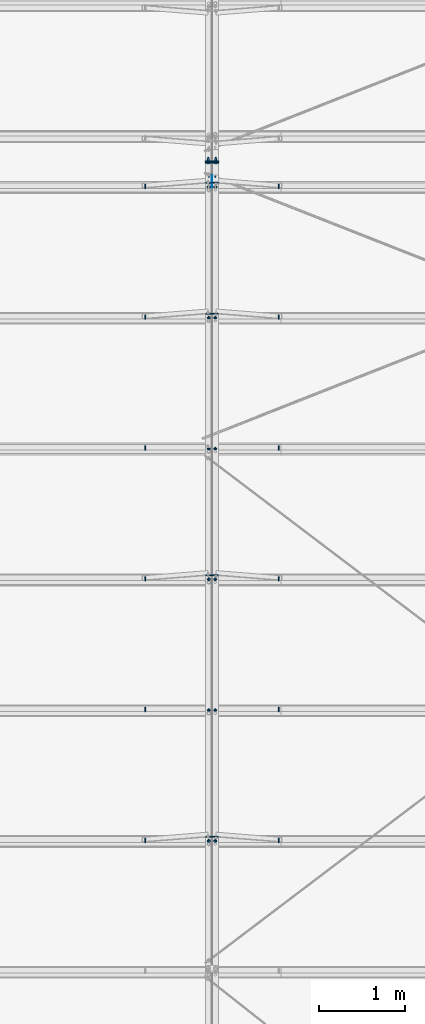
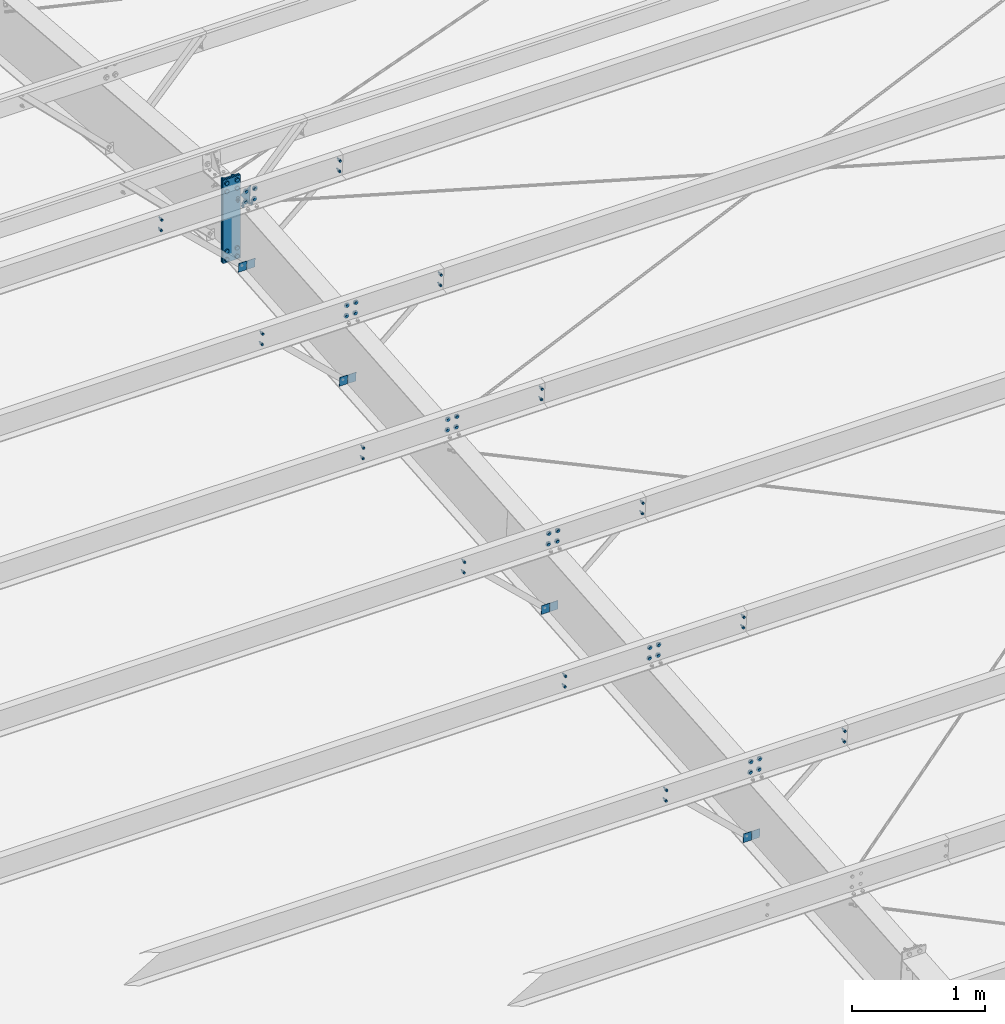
# One storey, part 79 of 185: 27 mechanical fasteners, 11 discrete accessories, 15 elements without a shape of their own.
"""IFC2X3 building model written with IfcOpenShell, lengths in millimetres."""

from ifc_helpers import new_model, si_unit, frame, origin_with_axes, origin_2d_with_axis, place, context, subcontext, project, spatial, polyline, rectangle, circle, outline, extrude, source, transform, mapped, material, type_object, element, aggregate, save


model = new_model("IFC2X3")

# Units and contexts
model_context = context("Model", 3, precision=1e-05, world=origin_with_axes())
body_context = subcontext(model_context, "Body", "Model", "MODEL_VIEW")
ifc_project = project(units=[si_unit("LENGTHUNIT", "METRE", prefix="MILLI"), si_unit("AREAUNIT", "SQUARE_METRE"), si_unit("VOLUMEUNIT", "CUBIC_METRE"), si_unit("MASSUNIT", "GRAM", prefix="KILO"), si_unit("TIMEUNIT", "SECOND"), si_unit("PLANEANGLEUNIT", "RADIAN"), si_unit("SOLIDANGLEUNIT", "STERADIAN"), si_unit("THERMODYNAMICTEMPERATUREUNIT", "DEGREE_CELSIUS"), si_unit("LUMINOUSINTENSITYUNIT", "LUMEN")], contexts=[model_context])

# Site, building, storey
site_placement = place(None, origin_with_axes())
site = spatial("IfcSite", under=ifc_project, at=site_placement, Name="Undefined", CompositionType="ELEMENT")
building_placement = place(site_placement, origin_with_axes())
building = spatial("IfcBuilding", under=site, at=building_placement, Name="Undefined", CompositionType="ELEMENT")
storey_placement = place(building_placement, origin_with_axes())
storey = spatial("IfcBuildingStorey", under=building, at=storey_placement, Name="Undefined", CompositionType="ELEMENT", Elevation=0.0)

# Assembly, mechanical fastener
assembly_1_placement = place(storey_placement, origin_with_axes())
assembly_1 = element("IfcElementAssembly", 1, at=assembly_1_placement, inside=storey, Name="Steel Assembly", AssemblyPlace="NOTDEFINED", PredefinedType="RIGID_FRAME")
ifc_material_1 = material(Name="Undefined")
discrete_accessory_type_1 = type_object("IfcDiscreteAccessoryType", Name="Bolt assembly")
shared_shape_1 = source(origin_with_axes(), body_context, "Body", "SweptSolid", [
    extrude(circle(Radius=7.14374971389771, at=origin_2d_with_axis()), frame((0.0, -1.59000001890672, 0.0), z_axis=(0.0, 1.0, 0.0), x_axis=(1.0, 0.0, 0.0)), (0.0, 0.0, 1.0), 3.3),
    extrude(circle(Radius=13.4937496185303, at=origin_2d_with_axis()), frame((0.0, -5.5587500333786, 0.0), z_axis=(0.0, 1.0, 0.0), x_axis=(1.0, 0.0, 0.0)), (0.0, 0.0, 1.0), 4.0),
    extrude(circle(Radius=22.2250003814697, at=origin_2d_with_axis()), frame((0.0, 1.5900000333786, 0.0), z_axis=(0.0, 1.0, 0.0), x_axis=(1.0, 0.0, 0.0)), (0.0, 0.0, 1.0), 7.9),
    extrude(outline(polyline([(12.8316099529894, 0.0), (6.4158049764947, 11.1125001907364), (-6.4158049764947, 11.1125001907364), (-12.8316099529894, 0.0), (-6.4158049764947, -11.1125001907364), (6.4158049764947, -11.1125001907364), (12.8316099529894, 0.0)])), frame((0.0, 9.5275000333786, 0.0), z_axis=(0.0, 1.0, 0.0), x_axis=(1.0, 0.0, 0.0)), (0.0, 0.0, 1.0), 12.3),
])
mechanical_fastener_1_placement = place(assembly_1_placement, frame((30137.1, 15702.4719876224, 7353.56325123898), z_axis=(1.0, 0.0, 0.0), x_axis=(0.0, 0.0830454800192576, -0.996545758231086)))
mechanical_fastener_1 = element("IfcMechanicalFastener", 2, at=mechanical_fastener_1_placement, type_object=discrete_accessory_type_1, material=ifc_material_1, Name="Bolt assembly", NominalDiameter=12.6999998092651, NominalLength=38.0999984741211, context=body_context, shape_type="MappedRepresentation", body=[
    mapped(shared_shape_1, transform((0.0, 0.0, 0.0))),
    mapped(shared_shape_1, transform((101.599998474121, 0.0, 0.0))),
])
aggregate(assembly_1, [mechanical_fastener_1])

assembly_2_placement = place(storey_placement, origin_with_axes())
assembly_2 = element("IfcElementAssembly", 3, at=assembly_2_placement, inside=storey, Name="Steel Assembly", AssemblyPlace="NOTDEFINED", PredefinedType="RIGID_FRAME")
mechanical_fastener_2_placement = place(assembly_2_placement, frame((30060.9, 15702.47198762, 7353.56325123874), z_axis=(1.0, 0.0, 0.0), x_axis=(0.0, 0.0830454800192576, -0.996545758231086)))
mechanical_fastener_2 = element("IfcMechanicalFastener", 4, at=mechanical_fastener_2_placement, type_object=discrete_accessory_type_1, material=ifc_material_1, Name="Bolt assembly", NominalDiameter=12.6999998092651, NominalLength=38.0999984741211, context=body_context, shape_type="MappedRepresentation", body=[
    mapped(shared_shape_1, transform((0.0, 0.0, 0.0))),
    mapped(shared_shape_1, transform((101.599998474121, 0.0, 0.0))),
])

assembly_3_placement = place(storey_placement, origin_with_axes())
assembly_3 = element("IfcElementAssembly", 5, at=assembly_3_placement, inside=storey, Name="Steel Assembly", AssemblyPlace="NOTDEFINED", PredefinedType="RIGID_FRAME")
mechanical_fastener_3_placement = place(assembly_3_placement, frame((30137.1, 14183.7362520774, 7227.00193968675), z_axis=(1.0, 0.0, 0.0), x_axis=(0.0, 0.0830454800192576, -0.996545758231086)))
mechanical_fastener_3 = element("IfcMechanicalFastener", 6, at=mechanical_fastener_3_placement, type_object=discrete_accessory_type_1, material=ifc_material_1, Name="Bolt assembly", NominalDiameter=12.6999998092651, NominalLength=38.0999984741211, context=body_context, shape_type="MappedRepresentation", body=[
    mapped(shared_shape_1, transform((0.0, 0.0, 0.0))),
    mapped(shared_shape_1, transform((101.599998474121, 0.0, 0.0))),
])
aggregate(assembly_3, [mechanical_fastener_3])

assembly_4_placement = place(storey_placement, origin_with_axes())
assembly_4 = element("IfcElementAssembly", 7, at=assembly_4_placement, inside=storey, Name="Steel Assembly", AssemblyPlace="NOTDEFINED", PredefinedType="RIGID_FRAME")
mechanical_fastener_4_placement = place(assembly_4_placement, frame((30060.9, 14183.7362520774, 7227.00193968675), z_axis=(1.0, 0.0, 0.0), x_axis=(0.0, 0.0830454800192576, -0.996545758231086)))
mechanical_fastener_4 = element("IfcMechanicalFastener", 8, at=mechanical_fastener_4_placement, type_object=discrete_accessory_type_1, material=ifc_material_1, Name="Bolt assembly", NominalDiameter=12.6999998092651, NominalLength=38.0999984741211, context=body_context, shape_type="MappedRepresentation", body=[
    mapped(shared_shape_1, transform((0.0, 0.0, 0.0))),
    mapped(shared_shape_1, transform((101.599998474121, 0.0, 0.0))),
])

assembly_5_placement = place(storey_placement, origin_with_axes())
assembly_5 = element("IfcElementAssembly", 9, at=assembly_5_placement, inside=storey, Name="Steel Assembly", AssemblyPlace="NOTDEFINED", PredefinedType="RIGID_FRAME")
mechanical_fastener_5_placement = place(assembly_5_placement, frame((30137.1, 12665.0005165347, 7100.44062813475), z_axis=(1.0, 0.0, 0.0), x_axis=(0.0, 0.0830454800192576, -0.996545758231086)))
mechanical_fastener_5 = element("IfcMechanicalFastener", 10, at=mechanical_fastener_5_placement, type_object=discrete_accessory_type_1, material=ifc_material_1, Name="Bolt assembly", NominalDiameter=12.6999998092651, NominalLength=38.0999984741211, context=body_context, shape_type="MappedRepresentation", body=[
    mapped(shared_shape_1, transform((0.0, 0.0, 0.0))),
    mapped(shared_shape_1, transform((101.599998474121, 0.0, 0.0))),
])
aggregate(assembly_5, [mechanical_fastener_5])

assembly_6_placement = place(storey_placement, origin_with_axes())
assembly_6 = element("IfcElementAssembly", 11, at=assembly_6_placement, inside=storey, Name="Steel Assembly", AssemblyPlace="NOTDEFINED", PredefinedType="RIGID_FRAME")
mechanical_fastener_6_placement = place(assembly_6_placement, frame((30060.9, 12665.0005165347, 7100.44062813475), z_axis=(1.0, 0.0, 0.0), x_axis=(0.0, 0.0830454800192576, -0.996545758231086)))
mechanical_fastener_6 = element("IfcMechanicalFastener", 12, at=mechanical_fastener_6_placement, type_object=discrete_accessory_type_1, material=ifc_material_1, Name="Bolt assembly", NominalDiameter=12.6999998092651, NominalLength=38.0999984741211, context=body_context, shape_type="MappedRepresentation", body=[
    mapped(shared_shape_1, transform((0.0, 0.0, 0.0))),
    mapped(shared_shape_1, transform((101.599998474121, 0.0, 0.0))),
])

assembly_7_placement = place(storey_placement, origin_with_axes())
assembly_7 = element("IfcElementAssembly", 13, at=assembly_7_placement, inside=storey, Name="Steel Assembly", AssemblyPlace="NOTDEFINED", PredefinedType="RIGID_FRAME")
mechanical_fastener_7_placement = place(assembly_7_placement, frame((30137.1, 11146.2647809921, 6973.87931658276), z_axis=(1.0, 0.0, 0.0), x_axis=(0.0, 0.0830454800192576, -0.996545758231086)))
mechanical_fastener_7 = element("IfcMechanicalFastener", 14, at=mechanical_fastener_7_placement, type_object=discrete_accessory_type_1, material=ifc_material_1, Name="Bolt assembly", NominalDiameter=12.6999998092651, NominalLength=38.0999984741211, context=body_context, shape_type="MappedRepresentation", body=[
    mapped(shared_shape_1, transform((0.0, 0.0, 0.0))),
    mapped(shared_shape_1, transform((101.599998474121, 0.0, 0.0))),
])
aggregate(assembly_7, [mechanical_fastener_7])

assembly_8_placement = place(storey_placement, origin_with_axes())
assembly_8 = element("IfcElementAssembly", 15, at=assembly_8_placement, inside=storey, Name="Steel Assembly", AssemblyPlace="NOTDEFINED", PredefinedType="RIGID_FRAME")
mechanical_fastener_8_placement = place(assembly_8_placement, frame((30060.9, 11146.2647809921, 6973.87931658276), z_axis=(1.0, 0.0, 0.0), x_axis=(0.0, 0.0830454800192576, -0.996545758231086)))
mechanical_fastener_8 = element("IfcMechanicalFastener", 16, at=mechanical_fastener_8_placement, type_object=discrete_accessory_type_1, material=ifc_material_1, Name="Bolt assembly", NominalDiameter=12.6999998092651, NominalLength=38.0999984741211, context=body_context, shape_type="MappedRepresentation", body=[
    mapped(shared_shape_1, transform((0.0, 0.0, 0.0))),
    mapped(shared_shape_1, transform((101.599998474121, 0.0, 0.0))),
])

assembly_9_placement = place(storey_placement, origin_with_axes())
assembly_9 = element("IfcElementAssembly", 17, at=assembly_9_placement, inside=storey, Name="Steel Assembly", AssemblyPlace="NOTDEFINED", PredefinedType="RIGID_FRAME")
mechanical_fastener_9_placement = place(assembly_9_placement, frame((30137.1, 9627.52904544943, 6847.31800503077), z_axis=(1.0, 0.0, 0.0), x_axis=(0.0, 0.0830454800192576, -0.996545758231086)))
mechanical_fastener_9 = element("IfcMechanicalFastener", 18, at=mechanical_fastener_9_placement, type_object=discrete_accessory_type_1, material=ifc_material_1, Name="Bolt assembly", NominalDiameter=12.6999998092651, NominalLength=38.0999984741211, context=body_context, shape_type="MappedRepresentation", body=[
    mapped(shared_shape_1, transform((0.0, 0.0, 0.0))),
    mapped(shared_shape_1, transform((101.599998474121, 0.0, 0.0))),
])
aggregate(assembly_9, [mechanical_fastener_9])

assembly_10_placement = place(storey_placement, origin_with_axes())
assembly_10 = element("IfcElementAssembly", 19, at=assembly_10_placement, inside=storey, Name="Steel Assembly", AssemblyPlace="NOTDEFINED", PredefinedType="RIGID_FRAME")
mechanical_fastener_10_placement = place(assembly_10_placement, frame((30060.9, 9627.52904544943, 6847.31800503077), z_axis=(1.0, 0.0, 0.0), x_axis=(0.0, 0.0830454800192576, -0.996545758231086)))
mechanical_fastener_10 = element("IfcMechanicalFastener", 20, at=mechanical_fastener_10_placement, type_object=discrete_accessory_type_1, material=ifc_material_1, Name="Bolt assembly", NominalDiameter=12.6999998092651, NominalLength=38.0999984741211, context=body_context, shape_type="MappedRepresentation", body=[
    mapped(shared_shape_1, transform((0.0, 0.0, 0.0))),
    mapped(shared_shape_1, transform((101.599998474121, 0.0, 0.0))),
])

assembly_11_placement = place(storey_placement, origin_with_axes())
assembly_11 = element("IfcElementAssembly", 21, at=assembly_11_placement, inside=storey, Name="Steel Assembly", AssemblyPlace="NOTDEFINED", PredefinedType="RIGID_FRAME")
mechanical_fastener_11_placement = place(assembly_11_placement, frame((30137.1, 8108.79330990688, 6720.75669347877), z_axis=(1.0, 0.0, 0.0), x_axis=(0.0, 0.0830454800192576, -0.996545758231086)))
mechanical_fastener_11 = element("IfcMechanicalFastener", 22, at=mechanical_fastener_11_placement, type_object=discrete_accessory_type_1, material=ifc_material_1, Name="Bolt assembly", NominalDiameter=12.6999998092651, NominalLength=38.0999984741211, context=body_context, shape_type="MappedRepresentation", body=[
    mapped(shared_shape_1, transform((0.0, 0.0, 0.0))),
    mapped(shared_shape_1, transform((101.599998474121, 0.0, 0.0))),
])
aggregate(assembly_11, [mechanical_fastener_11])

assembly_12_placement = place(storey_placement, origin_with_axes())
assembly_12 = element("IfcElementAssembly", 23, at=assembly_12_placement, inside=storey, Name="Steel Assembly", AssemblyPlace="NOTDEFINED", PredefinedType="RIGID_FRAME")
mechanical_fastener_12_placement = place(assembly_12_placement, frame((30060.9, 8108.79330990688, 6720.75669347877), z_axis=(1.0, 0.0, 0.0), x_axis=(0.0, 0.0830454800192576, -0.996545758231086)))
mechanical_fastener_12 = element("IfcMechanicalFastener", 24, at=mechanical_fastener_12_placement, type_object=discrete_accessory_type_1, material=ifc_material_1, Name="Bolt assembly", NominalDiameter=12.6999998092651, NominalLength=38.0999984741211, context=body_context, shape_type="MappedRepresentation", body=[
    mapped(shared_shape_1, transform((0.0, 0.0, 0.0))),
    mapped(shared_shape_1, transform((101.599998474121, 0.0, 0.0))),
])

# Assembly, discrete accessory
assembly_13_placement = place(storey_placement, origin_with_axes())
assembly_13 = element("IfcElementAssembly", 25, at=assembly_13_placement, inside=storey, Name="Steel Assembly", AssemblyPlace="NOTDEFINED", PredefinedType="RIGID_FRAME")
ifc_material_2 = material(Name="STEEL/55")
discrete_accessory_type_2 = type_object("IfcDiscreteAccessoryType", Name="PLATE")
discrete_accessory_1_placement = place(assembly_13_placement, frame((30099.0, 15853.8182223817, 7219.61919678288), z_axis=(-1.0, 0.0, 0.0), x_axis=(0.0, -0.996545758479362, -0.0830454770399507)))
discrete_accessory_1 = element("IfcDiscreteAccessory", 26, at=discrete_accessory_1_placement, type_object=discrete_accessory_type_2, material=ifc_material_2, Name="PLATE", ObjectType="FL1/4\"X5 1/4\"", context=body_context, shape_type="SweptSolid", body=[
    extrude(outline(polyline([(0.0, 0.0), (133.350006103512, 3.70164343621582e-10), (133.350006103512, 190.500000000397), (0.0, 0.0)])), frame((0.0, 0.0, -3.175), z_axis=(0.0, 0.0, 1.0), x_axis=(1.0, 0.0, 0.0)), (0.0, 0.0, 1.0), 6.4),
])

# Assembly, discrete accessories
assembly_14_placement = place(storey_placement, origin_with_axes())
assembly_14 = element("IfcElementAssembly", 27, at=assembly_14_placement, inside=storey, Name="Steel Assembly", AssemblyPlace="NOTDEFINED", PredefinedType="RIGID_FRAME")
discrete_accessory_type_3 = type_object("IfcDiscreteAccessoryType", Name="FLANGE BRACE FLIP")
discrete_accessory_2_placement = place(assembly_14_placement, frame((30100.70815, 15761.1512342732, 6628.84524774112), z_axis=(0.0, -0.0830454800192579, 0.996545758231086), x_axis=(1.0, 0.0, 0.0)))
discrete_accessory_2 = element("IfcDiscreteAccessory", 28, at=discrete_accessory_2_placement, type_object=discrete_accessory_type_3, material=ifc_material_2, Name="FLANGE BRACE FLIP", ObjectType="PL1/8\"X2 3/4\"", context=body_context, shape_type="SweptSolid", body=[
    extrude(rectangle(XDim=3.416, YDim=85.725, at=origin_2d_with_axis()), frame((69.8499999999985, 0.0, 0.0), z_axis=(-1.0, 0.0, 0.0), x_axis=(0.0, -1.0, 0.0)), (0.0, 0.0, 1.0), 69.8),
])
discrete_accessory_3_placement = place(assembly_14_placement, frame((30097.29185, 15761.1512342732, 6628.84524774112), z_axis=(0.0, -0.0830454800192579, 0.996545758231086), x_axis=(-1.0, 0.0, 0.0)))
discrete_accessory_3 = element("IfcDiscreteAccessory", 29, at=discrete_accessory_3_placement, type_object=discrete_accessory_type_3, material=ifc_material_2, Name="FLANGE BRACE FLIP", ObjectType="PL1/8\"X2 3/4\"", context=body_context, shape_type="SweptSolid", body=[
    extrude(rectangle(XDim=3.416, YDim=85.725, at=origin_2d_with_axis()), frame((69.8499999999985, 0.0, 0.0), z_axis=(-1.0, 0.0, 0.0), x_axis=(0.0, -1.0, 0.0)), (0.0, 0.0, 1.0), 69.8),
])
discrete_accessory_4_placement = place(assembly_14_placement, frame((30100.70815, 14242.4154987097, 6502.2839364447), z_axis=(0.0, -0.0830454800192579, 0.996545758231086), x_axis=(1.0, 0.0, 0.0)))
discrete_accessory_4 = element("IfcDiscreteAccessory", 30, at=discrete_accessory_4_placement, type_object=discrete_accessory_type_3, material=ifc_material_2, Name="FLANGE BRACE FLIP", ObjectType="PL1/8\"X2 3/4\"", context=body_context, shape_type="SweptSolid", body=[
    extrude(rectangle(XDim=3.416, YDim=85.725, at=origin_2d_with_axis()), frame((69.8499999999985, 0.0, 0.0), z_axis=(-1.0, 0.0, 0.0), x_axis=(0.0, -1.0, 0.0)), (0.0, 0.0, 1.0), 69.8),
])
discrete_accessory_5_placement = place(assembly_14_placement, frame((30097.29185, 14242.4154987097, 6502.2839364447), z_axis=(0.0, -0.0830454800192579, 0.996545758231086), x_axis=(-1.0, 0.0, 0.0)))
discrete_accessory_5 = element("IfcDiscreteAccessory", 31, at=discrete_accessory_5_placement, type_object=discrete_accessory_type_3, material=ifc_material_2, Name="FLANGE BRACE FLIP", ObjectType="PL1/8\"X2 3/4\"", context=body_context, shape_type="SweptSolid", body=[
    extrude(rectangle(XDim=3.416, YDim=85.725, at=origin_2d_with_axis()), frame((69.8499999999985, 0.0, 0.0), z_axis=(-1.0, 0.0, 0.0), x_axis=(0.0, -1.0, 0.0)), (0.0, 0.0, 1.0), 69.8),
])
discrete_accessory_6_placement = place(assembly_14_placement, frame((30100.70815, 11204.9440275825, 6249.16131385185), z_axis=(0.0, -0.0830454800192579, 0.996545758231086), x_axis=(1.0, 0.0, 0.0)))
discrete_accessory_6 = element("IfcDiscreteAccessory", 32, at=discrete_accessory_6_placement, type_object=discrete_accessory_type_3, material=ifc_material_2, Name="FLANGE BRACE FLIP", ObjectType="PL1/8\"X2 3/4\"", context=body_context, shape_type="SweptSolid", body=[
    extrude(rectangle(XDim=3.416, YDim=85.725, at=origin_2d_with_axis()), frame((69.8499999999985, 0.0, 0.0), z_axis=(-1.0, 0.0, 0.0), x_axis=(0.0, -1.0, 0.0)), (0.0, 0.0, 1.0), 69.8),
])
discrete_accessory_7_placement = place(assembly_14_placement, frame((30097.29185, 11204.9440275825, 6249.16131385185), z_axis=(0.0, -0.0830454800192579, 0.996545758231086), x_axis=(-1.0, 0.0, 0.0)))
discrete_accessory_7 = element("IfcDiscreteAccessory", 33, at=discrete_accessory_7_placement, type_object=discrete_accessory_type_3, material=ifc_material_2, Name="FLANGE BRACE FLIP", ObjectType="PL1/8\"X2 3/4\"", context=body_context, shape_type="SweptSolid", body=[
    extrude(rectangle(XDim=3.416, YDim=85.725, at=origin_2d_with_axis()), frame((69.8499999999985, 0.0, 0.0), z_axis=(-1.0, 0.0, 0.0), x_axis=(0.0, -1.0, 0.0)), (0.0, 0.0, 1.0), 69.8),
])
discrete_accessory_8_placement = place(assembly_14_placement, frame((30100.70815, 8167.47255645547, 5996.03869125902), z_axis=(0.0, -0.0830454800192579, 0.996545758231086), x_axis=(1.0, 0.0, 0.0)))
discrete_accessory_8 = element("IfcDiscreteAccessory", 34, at=discrete_accessory_8_placement, type_object=discrete_accessory_type_3, material=ifc_material_2, Name="FLANGE BRACE FLIP", ObjectType="PL1/8\"X2 3/4\"", context=body_context, shape_type="SweptSolid", body=[
    extrude(rectangle(XDim=3.416, YDim=85.725, at=origin_2d_with_axis()), frame((69.8499999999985, 0.0, 0.0), z_axis=(-1.0, 0.0, 0.0), x_axis=(0.0, -1.0, 0.0)), (0.0, 0.0, 1.0), 69.8),
])
discrete_accessory_9_placement = place(assembly_14_placement, frame((30097.29185, 8167.47255645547, 5996.03869125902), z_axis=(0.0, -0.0830454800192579, 0.996545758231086), x_axis=(-1.0, 0.0, 0.0)))
discrete_accessory_9 = element("IfcDiscreteAccessory", 35, at=discrete_accessory_9_placement, type_object=discrete_accessory_type_3, material=ifc_material_2, Name="FLANGE BRACE FLIP", ObjectType="PL1/8\"X2 3/4\"", context=body_context, shape_type="SweptSolid", body=[
    extrude(rectangle(XDim=3.416, YDim=85.725, at=origin_2d_with_axis()), frame((69.8499999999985, 0.0, 0.0), z_axis=(-1.0, 0.0, 0.0), x_axis=(0.0, -1.0, 0.0)), (0.0, 0.0, 1.0), 69.8),
])

# Mechanical fastener
shared_shape_2 = source(origin_with_axes(), body_context, "Body", "SweptSolid", [
    extrude(circle(Radius=7.14374971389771, at=origin_2d_with_axis()), frame((0.0, -0.0238014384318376, 0.0), z_axis=(0.0, 1.0, 0.0), x_axis=(1.0, 0.0, 0.0)), (0.0, 0.0, 1.0), 8.0),
    extrude(circle(Radius=7.14374971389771, at=origin_2d_with_axis()), frame((0.0, -6.24999999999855, 0.0), z_axis=(0.0, 1.0, 0.0), x_axis=(1.0, 0.0, 0.0)), (0.0, 0.0, 1.0), 6.4),
    extrude(outline(polyline([(10.9985221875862, 0.0), (5.4992610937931, 9.52499961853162), (-5.4992610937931, 9.52499961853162), (-10.9985221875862, 0.0), (-5.4992610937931, -9.52499961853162), (5.4992610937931, -9.52499961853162), (10.9985221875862, 0.0)])), frame((0.0, -15.8750000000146, 0.0), z_axis=(0.0, 1.0, 0.0), x_axis=(1.0, 0.0, 0.0)), (0.0, 0.0, 1.0), 9.5),
    extrude(circle(Radius=6.34999990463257, at=origin_2d_with_axis()), frame((0.0, -6.34999953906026, 0.0), z_axis=(0.0, 1.0, 0.0), x_axis=(1.0, 0.0, 0.0)), (0.0, 0.0, 1.0), 38.1),
    extrude(outline(polyline([(12.8316099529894, 0.0), (6.4158049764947, 11.1125001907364), (-6.4158049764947, 11.1125001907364), (-12.8316099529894, 0.0), (-6.4158049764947, -11.1125001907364), (6.4158049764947, -11.1125001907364), (12.8316099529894, 0.0)])), frame((0.0, 7.95019856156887, 0.0), z_axis=(0.0, 1.0, 0.0), x_axis=(1.0, 0.0, 0.0)), (0.0, 0.0, 1.0), 12.3),
])
mechanical_fastener_13_placement = place(assembly_13_placement, frame((30099.0, 15753.0965121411, 7204.85371046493), z_axis=(-1.0, 0.0, 0.0), x_axis=(0.0, 0.996545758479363, 0.0830454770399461)))
mechanical_fastener_13 = element("IfcMechanicalFastener", 36, at=mechanical_fastener_13_placement, type_object=discrete_accessory_type_1, material=ifc_material_1, Name="Bolt assembly", NominalDiameter=12.6999998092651, NominalLength=38.0999984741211, context=body_context, shape_type="MappedRepresentation", body=[
    mapped(shared_shape_2, transform((0.0, 0.0, -38.0999984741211))),
    mapped(shared_shape_2, transform((76.1999969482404, -1.38243194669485e-10, -38.0999984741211))),
    mapped(shared_shape_2, transform((0.0, 0.0, 38.0999984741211))),
    mapped(shared_shape_2, transform((76.1999969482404, -1.38243194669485e-10, 38.0999984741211))),
])

aggregate(assembly_13, [mechanical_fastener_13, discrete_accessory_1])

shared_shape_3 = source(origin_with_axes(), body_context, "Body", "SweptSolid", [
    extrude(circle(Radius=7.14374971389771, at=origin_2d_with_axis()), frame((0.0, -1.4900000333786, 0.0), z_axis=(0.0, 1.0, 0.0), x_axis=(1.0, 0.0, 0.0)), (0.0, 0.0, 1.0), 3.2),
    extrude(circle(Radius=7.14374971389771, at=origin_2d_with_axis()), frame((0.0, -1.4900000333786, 0.0), z_axis=(0.0, 1.0, 0.0), x_axis=(1.0, 0.0, 0.0)), (0.0, 0.0, 1.0), 3.2),
    extrude(outline(polyline([(10.9985221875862, 0.0), (5.4992610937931, 9.52499961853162), (-5.4992610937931, 9.52499961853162), (-10.9985221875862, 0.0), (-5.4992610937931, -9.52499961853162), (5.4992610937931, -9.52499961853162), (10.9985221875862, 0.0)])), frame((0.0, -11.1149996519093, 0.0), z_axis=(0.0, 1.0, 0.0), x_axis=(1.0, 0.0, 0.0)), (0.0, 0.0, 1.0), 9.5),
    extrude(circle(Radius=6.34999990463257, at=origin_2d_with_axis()), frame((0.0, -1.59000001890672, 0.0), z_axis=(0.0, 1.0, 0.0), x_axis=(1.0, 0.0, 0.0)), (0.0, 0.0, 1.0), 38.1),
    extrude(outline(polyline([(12.8316099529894, 0.0), (6.4158049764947, 11.1125001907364), (-6.4158049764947, 11.1125001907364), (-12.8316099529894, 0.0), (-6.4158049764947, -11.1125001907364), (6.4158049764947, -11.1125001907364), (12.8316099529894, 0.0)])), frame((0.0, 1.5900000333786, 0.0), z_axis=(0.0, 1.0, 0.0), x_axis=(1.0, 0.0, 0.0)), (0.0, 0.0, 1.0), 12.3),
])
mechanical_fastener_14_placement = place(assembly_12_placement, frame((30873.7, 8108.79330990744, 6720.75669347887), z_axis=(1.0, 0.0, 0.0), x_axis=(0.0, 0.0830454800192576, -0.996545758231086)))
mechanical_fastener_14 = element("IfcMechanicalFastener", 37, at=mechanical_fastener_14_placement, type_object=discrete_accessory_type_1, material=ifc_material_1, Name="Bolt assembly", NominalDiameter=12.6999998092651, NominalLength=38.0999984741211, context=body_context, shape_type="MappedRepresentation", body=[
    mapped(shared_shape_3, transform((0.0, 0.0, 0.0))),
    mapped(shared_shape_3, transform((101.599998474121, 0.0, 0.0))),
])

mechanical_fastener_15_placement = place(assembly_12_placement, frame((29324.3, 8108.79330990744, 6720.75669347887), z_axis=(1.0, 0.0, 0.0), x_axis=(0.0, 0.0830454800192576, -0.996545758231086)))
mechanical_fastener_15 = element("IfcMechanicalFastener", 38, at=mechanical_fastener_15_placement, type_object=discrete_accessory_type_1, material=ifc_material_1, Name="Bolt assembly", NominalDiameter=12.6999998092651, NominalLength=38.0999984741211, context=body_context, shape_type="MappedRepresentation", body=[
    mapped(shared_shape_3, transform((0.0, 0.0, 0.0))),
    mapped(shared_shape_3, transform((101.599998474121, 0.0, 0.0))),
])

aggregate(assembly_12, [mechanical_fastener_14, mechanical_fastener_15, mechanical_fastener_12])

mechanical_fastener_16_placement = place(assembly_10_placement, frame((30873.7, 9627.52904545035, 6847.31800503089), z_axis=(1.0, 0.0, 0.0), x_axis=(0.0, 0.0830454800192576, -0.996545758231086)))
mechanical_fastener_16 = element("IfcMechanicalFastener", 39, at=mechanical_fastener_16_placement, type_object=discrete_accessory_type_1, material=ifc_material_1, Name="Bolt assembly", NominalDiameter=12.6999998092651, NominalLength=38.0999984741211, context=body_context, shape_type="MappedRepresentation", body=[
    mapped(shared_shape_3, transform((0.0, 0.0, 0.0))),
    mapped(shared_shape_3, transform((101.599998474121, 0.0, 0.0))),
])

mechanical_fastener_17_placement = place(assembly_10_placement, frame((29324.3, 9627.52904545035, 6847.31800503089), z_axis=(1.0, 0.0, 0.0), x_axis=(0.0, 0.0830454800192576, -0.996545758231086)))
mechanical_fastener_17 = element("IfcMechanicalFastener", 40, at=mechanical_fastener_17_placement, type_object=discrete_accessory_type_1, material=ifc_material_1, Name="Bolt assembly", NominalDiameter=12.6999998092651, NominalLength=38.0999984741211, context=body_context, shape_type="MappedRepresentation", body=[
    mapped(shared_shape_3, transform((0.0, 0.0, 0.0))),
    mapped(shared_shape_3, transform((101.599998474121, 0.0, 0.0))),
])

aggregate(assembly_10, [mechanical_fastener_16, mechanical_fastener_17, mechanical_fastener_10])

mechanical_fastener_18_placement = place(assembly_8_placement, frame((30873.7, 11146.2647809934, 6973.87931658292), z_axis=(1.0, 0.0, 0.0), x_axis=(0.0, 0.0830454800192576, -0.996545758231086)))
mechanical_fastener_18 = element("IfcMechanicalFastener", 41, at=mechanical_fastener_18_placement, type_object=discrete_accessory_type_1, material=ifc_material_1, Name="Bolt assembly", NominalDiameter=12.6999998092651, NominalLength=38.0999984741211, context=body_context, shape_type="MappedRepresentation", body=[
    mapped(shared_shape_3, transform((0.0, 0.0, 0.0))),
    mapped(shared_shape_3, transform((101.599998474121, 0.0, 0.0))),
])

mechanical_fastener_19_placement = place(assembly_8_placement, frame((29324.3, 11146.2647809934, 6973.87931658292), z_axis=(1.0, 0.0, 0.0), x_axis=(0.0, 0.0830454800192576, -0.996545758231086)))
mechanical_fastener_19 = element("IfcMechanicalFastener", 42, at=mechanical_fastener_19_placement, type_object=discrete_accessory_type_1, material=ifc_material_1, Name="Bolt assembly", NominalDiameter=12.6999998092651, NominalLength=38.0999984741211, context=body_context, shape_type="MappedRepresentation", body=[
    mapped(shared_shape_3, transform((0.0, 0.0, 0.0))),
    mapped(shared_shape_3, transform((101.599998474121, 0.0, 0.0))),
])

aggregate(assembly_8, [mechanical_fastener_18, mechanical_fastener_19, mechanical_fastener_8])

mechanical_fastener_20_placement = place(assembly_6_placement, frame((30873.7, 12665.0005165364, 7100.44062813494), z_axis=(1.0, 0.0, 0.0), x_axis=(0.0, 0.0830454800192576, -0.996545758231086)))
mechanical_fastener_20 = element("IfcMechanicalFastener", 43, at=mechanical_fastener_20_placement, type_object=discrete_accessory_type_1, material=ifc_material_1, Name="Bolt assembly", NominalDiameter=12.6999998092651, NominalLength=38.0999984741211, context=body_context, shape_type="MappedRepresentation", body=[
    mapped(shared_shape_3, transform((0.0, 0.0, 0.0))),
    mapped(shared_shape_3, transform((101.599998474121, 0.0, 0.0))),
])

mechanical_fastener_21_placement = place(assembly_6_placement, frame((29324.3, 12665.0005165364, 7100.44062813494), z_axis=(1.0, 0.0, 0.0), x_axis=(0.0, 0.0830454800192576, -0.996545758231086)))
mechanical_fastener_21 = element("IfcMechanicalFastener", 44, at=mechanical_fastener_21_placement, type_object=discrete_accessory_type_1, material=ifc_material_1, Name="Bolt assembly", NominalDiameter=12.6999998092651, NominalLength=38.0999984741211, context=body_context, shape_type="MappedRepresentation", body=[
    mapped(shared_shape_3, transform((0.0, 0.0, 0.0))),
    mapped(shared_shape_3, transform((101.599998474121, 0.0, 0.0))),
])

aggregate(assembly_6, [mechanical_fastener_20, mechanical_fastener_21, mechanical_fastener_6])

mechanical_fastener_22_placement = place(assembly_4_placement, frame((30873.7, 14183.7362520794, 7227.00193968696), z_axis=(1.0, 0.0, 0.0), x_axis=(0.0, 0.0830454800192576, -0.996545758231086)))
mechanical_fastener_22 = element("IfcMechanicalFastener", 45, at=mechanical_fastener_22_placement, type_object=discrete_accessory_type_1, material=ifc_material_1, Name="Bolt assembly", NominalDiameter=12.6999998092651, NominalLength=38.0999984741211, context=body_context, shape_type="MappedRepresentation", body=[
    mapped(shared_shape_3, transform((0.0, 0.0, 0.0))),
    mapped(shared_shape_3, transform((101.599998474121, 0.0, 0.0))),
])

mechanical_fastener_23_placement = place(assembly_4_placement, frame((29324.3, 14183.7362520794, 7227.00193968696), z_axis=(1.0, 0.0, 0.0), x_axis=(0.0, 0.0830454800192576, -0.996545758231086)))
mechanical_fastener_23 = element("IfcMechanicalFastener", 46, at=mechanical_fastener_23_placement, type_object=discrete_accessory_type_1, material=ifc_material_1, Name="Bolt assembly", NominalDiameter=12.6999998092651, NominalLength=38.0999984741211, context=body_context, shape_type="MappedRepresentation", body=[
    mapped(shared_shape_3, transform((0.0, 0.0, 0.0))),
    mapped(shared_shape_3, transform((101.599998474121, 0.0, 0.0))),
])

aggregate(assembly_4, [mechanical_fastener_22, mechanical_fastener_23, mechanical_fastener_4])

mechanical_fastener_24_placement = place(assembly_2_placement, frame((30873.7, 15702.4719876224, 7353.56325123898), z_axis=(1.0, 0.0, 0.0), x_axis=(0.0, 0.0830454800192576, -0.996545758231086)))
mechanical_fastener_24 = element("IfcMechanicalFastener", 47, at=mechanical_fastener_24_placement, type_object=discrete_accessory_type_1, material=ifc_material_1, Name="Bolt assembly", NominalDiameter=12.6999998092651, NominalLength=38.0999984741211, context=body_context, shape_type="MappedRepresentation", body=[
    mapped(shared_shape_3, transform((0.0, 0.0, 0.0))),
    mapped(shared_shape_3, transform((101.599998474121, 0.0, 0.0))),
])

mechanical_fastener_25_placement = place(assembly_2_placement, frame((29324.3, 15702.4719876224, 7353.56325123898), z_axis=(1.0, 0.0, 0.0), x_axis=(0.0, 0.0830454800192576, -0.996545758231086)))
mechanical_fastener_25 = element("IfcMechanicalFastener", 48, at=mechanical_fastener_25_placement, type_object=discrete_accessory_type_1, material=ifc_material_1, Name="Bolt assembly", NominalDiameter=12.6999998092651, NominalLength=38.0999984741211, context=body_context, shape_type="MappedRepresentation", body=[
    mapped(shared_shape_3, transform((0.0, 0.0, 0.0))),
    mapped(shared_shape_3, transform((101.599998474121, 0.0, 0.0))),
])

aggregate(assembly_2, [mechanical_fastener_24, mechanical_fastener_25, mechanical_fastener_2])

shared_shape_4 = source(origin_with_axes(), body_context, "Body", "SweptSolid", [
    extrude(circle(Radius=10.3187494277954, at=origin_2d_with_axis()), frame((0.0, -0.1, 0.0), z_axis=(0.0, 1.0, 0.0), x_axis=(1.0, 0.0, 0.0)), (0.0, 0.0, 1.0), 12.8),
    extrude(circle(Radius=10.3187494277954, at=origin_2d_with_axis()), frame((0.0, -12.5999999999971, 0.0), z_axis=(0.0, 1.0, 0.0), x_axis=(1.0, 0.0, 0.0)), (0.0, 0.0, 1.0), 12.7),
    extrude(outline(polyline([(18.3308710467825, 0.0), (9.16543552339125, 15.8750000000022), (-9.16543552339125, 15.8750000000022), (-18.3308710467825, 0.0), (-9.16543552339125, -15.8750000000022), (9.16543552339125, -15.8750000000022), (18.3308710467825, 0.0)])), frame((0.0, -24.6062499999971, 0.0), z_axis=(0.0, 1.0, 0.0), x_axis=(1.0, 0.0, 0.0)), (0.0, 0.0, 1.0), 11.9),
    extrude(circle(Radius=9.52499961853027, at=origin_2d_with_axis()), frame((0.0, -12.6999999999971, 0.0), z_axis=(0.0, 1.0, 0.0), x_axis=(1.0, 0.0, 0.0)), (0.0, 0.0, 1.0), 69.8),
    extrude(circle(Radius=22.2250003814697, at=origin_2d_with_axis()), frame((0.0, 12.6999999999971, 0.0), z_axis=(0.0, 1.0, 0.0), x_axis=(1.0, 0.0, 0.0)), (0.0, 0.0, 1.0), 7.9),
    extrude(outline(polyline([(18.3308710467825, 0.0), (9.16543552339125, 15.8750000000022), (-9.16543552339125, 15.8750000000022), (-18.3308710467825, 0.0), (-9.16543552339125, -15.8750000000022), (9.16543552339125, -15.8750000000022), (18.3308710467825, 0.0)])), frame((0.0, 20.6374999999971, 0.0), z_axis=(0.0, 1.0, 0.0), x_axis=(1.0, 0.0, 0.0)), (0.0, 0.0, 1.0), 19.0),
])
mechanical_fastener_26_placement = place(assembly_14_placement, frame((30099.0, 16001.9999999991, 6561.9804128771), z_axis=(-1.0, 0.0, 0.0), x_axis=(0.0, 0.0, 1.0)))
mechanical_fastener_26 = element("IfcMechanicalFastener", 49, at=mechanical_fastener_26_placement, type_object=discrete_accessory_type_1, material=ifc_material_1, Name="Bolt assembly", NominalDiameter=19.0499992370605, NominalLength=69.8499984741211, context=body_context, shape_type="MappedRepresentation", body=[
    mapped(shared_shape_4, transform((0.0, 0.0, -44.4500007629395))),
    mapped(shared_shape_4, transform((76.1999969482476, 0.0, -44.4500007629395))),
    mapped(shared_shape_4, transform((0.0, 0.0, 44.4500007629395))),
    mapped(shared_shape_4, transform((76.1999969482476, 0.0, 44.4500007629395))),
])

mechanical_fastener_27_placement = place(assembly_14_placement, frame((30099.0, 16001.9999999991, 7262.06791218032), z_axis=(1.0, 0.0, 0.0), x_axis=(0.0, 0.0, -1.0)))
mechanical_fastener_27 = element("IfcMechanicalFastener", 50, at=mechanical_fastener_27_placement, type_object=discrete_accessory_type_1, material=ifc_material_1, Name="Bolt assembly", NominalDiameter=19.0499992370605, NominalLength=69.8499984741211, context=body_context, shape_type="MappedRepresentation", body=[
    mapped(shared_shape_4, transform((0.0, 0.0, -44.4500007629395))),
    mapped(shared_shape_4, transform((76.1999969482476, 0.0, -44.4500007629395))),
    mapped(shared_shape_4, transform((0.0, 0.0, 44.4500007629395))),
    mapped(shared_shape_4, transform((76.1999969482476, 0.0, 44.4500007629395))),
])

# Assembly, discrete accessory
assembly_15_placement = place(storey_placement, origin_with_axes())
assembly_15 = element("IfcElementAssembly", 51, at=assembly_15_placement, inside=storey, Name="Steel Assembly", AssemblyPlace="NOTDEFINED", PredefinedType="RIGID_FRAME")
discrete_accessory_type_4 = type_object("IfcDiscreteAccessoryType", Name="Rafter Ridge Plate")
discrete_accessory_10_placement = place(assembly_15_placement, frame((30099.0, 16008.3500000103, 7293.81790912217), z_axis=(-1.0, 0.0, 0.0), x_axis=(0.0, 0.0, -1.0)))
discrete_accessory_10 = element("IfcDiscreteAccessory", 52, at=discrete_accessory_10_placement, type_object=discrete_accessory_type_4, material=ifc_material_2, Name="Rafter Ridge Plate", ObjectType="FL1/2\"X6\"", context=body_context, shape_type="SweptSolid", body=[
    extrude(rectangle(XDim=12.7, YDim=152.4, at=origin_2d_with_axis()), frame((763.587493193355, 0.0, 0.0), z_axis=(-1.0, 0.0, 0.0), x_axis=(0.0, -1.0, 0.0)), (0.0, 0.0, 1.0), 763.6),
])
aggregate(assembly_15, [discrete_accessory_10])

# Discrete accessory
discrete_accessory_11_placement = place(assembly_14_placement, frame((30099.0, 15995.6499999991, 7293.81790912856), z_axis=(1.0, 0.0, 0.0), x_axis=(0.0, 0.0, -1.0)))
discrete_accessory_11 = element("IfcDiscreteAccessory", 53, at=discrete_accessory_11_placement, type_object=discrete_accessory_type_4, material=ifc_material_2, Name="Rafter Ridge Plate", ObjectType="FL1/2\"X6\"", context=body_context, shape_type="SweptSolid", body=[
    extrude(rectangle(XDim=12.7, YDim=152.4, at=origin_2d_with_axis()), frame((763.587493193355, 0.0, 0.0), z_axis=(-1.0, 0.0, 0.0), x_axis=(0.0, -1.0, 0.0)), (0.0, 0.0, 1.0), 763.6),
])

aggregate(assembly_14, [discrete_accessory_2, discrete_accessory_3, discrete_accessory_4, discrete_accessory_5, discrete_accessory_6, discrete_accessory_7, discrete_accessory_8, discrete_accessory_9, mechanical_fastener_26, mechanical_fastener_27, discrete_accessory_11])

save(model, "model.ifc")
